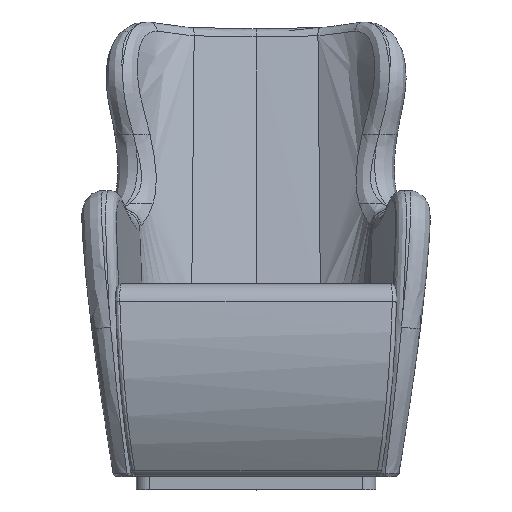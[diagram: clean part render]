
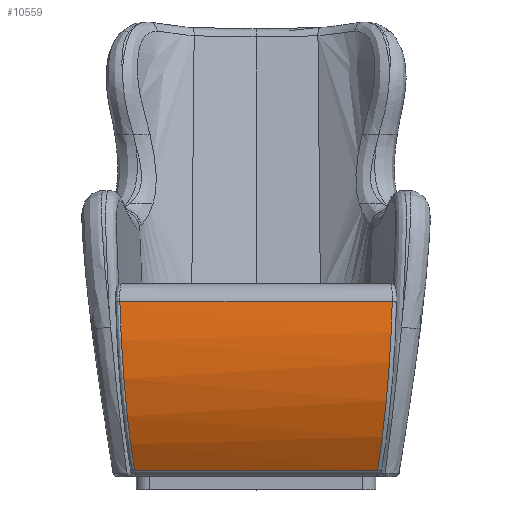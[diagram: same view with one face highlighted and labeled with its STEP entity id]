
A CAD part, top view. The second image highlights one B-rep face of the part: STEP entity #10559.
In plain terms, the highlighted cylindrical face has radius 525.307 mm (diameter 1050.61 mm), a partial arc.
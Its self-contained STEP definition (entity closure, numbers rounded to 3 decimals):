
#41 = CARTESIAN_POINT ( 'NONE',  ( 282.025, -276.594, 460.344 ) ) ;
#47 = CARTESIAN_POINT ( 'NONE',  ( -303.495, -78.301, 526.778 ) ) ;
#939 = EDGE_CURVE ( 'NONE', #6883, #5391, #5728, .T. ) ;
#1626 = CARTESIAN_POINT ( 'NONE',  ( -284.701, -257.875, 470.382 ) ) ;
#1877 = CARTESIAN_POINT ( 'NONE',  ( -289.258, -223.756, 486.861 ) ) ;
#2002 = CARTESIAN_POINT ( 'NONE',  ( -297.181, -152.859, 512.193 ) ) ;
#2056 = ORIENTED_EDGE ( 'NONE', *, *, #23037, .T. ) ;
#2128 = CARTESIAN_POINT ( 'NONE',  ( -284.436, -259.745, 469.393 ) ) ;
#2774 = CARTESIAN_POINT ( 'NONE',  ( 311.404, 81.202, 522.237 ) ) ;
#3630 = VERTEX_POINT ( 'NONE', #13041 ) ;
#3632 = CARTESIAN_POINT ( 'NONE',  ( -435.622, -13.27, 5.495 ) ) ;
#3709 = CARTESIAN_POINT ( 'NONE',  ( 305.239, -53.757, 529.508 ) ) ;
#3713 = CARTESIAN_POINT ( 'NONE',  ( -293.865, -184.837, 502.277 ) ) ;
#3837 = CARTESIAN_POINT ( 'NONE',  ( -292.093, -200.563, 496.565 ) ) ;
#4204 = CARTESIAN_POINT ( 'NONE',  ( -302.383, -93.006, 524.719 ) ) ;
#4267 = AXIS2_PLACEMENT_3D ( 'NONE', #3632, #7925, #25864 ) ;
#4688 = CARTESIAN_POINT ( 'NONE',  ( -277.465, -305.043, 442.32 ) ) ;
#5031 = CARTESIAN_POINT ( 'NONE',  ( -311.404, 81.202, 522.237 ) ) ;
#5166 = CARTESIAN_POINT ( 'NONE',  ( -310.957, 64.427, 525.304 ) ) ;
#5391 = VERTEX_POINT ( 'NONE', #4688 ) ;
#5676 = CARTESIAN_POINT ( 'NONE',  ( 301.575, -103.715, 523.232 ) ) ;
#5728 = B_SPLINE_CURVE_WITH_KNOTS ( 'NONE', 3,
 ( #5031, #5166, #14966, #9083, #13005, #12185, #16124, #12061, #47, #14032, #23855, #23731, #4204, #19932, #11689, #6054, #2002, #3713, #3837, #1877, #5933, #8009, #25562, #21763, #22138, #1626, #2128, #9851, #19681, #20055 ),
 .UNSPECIFIED., .F., .F.,
 ( 4, 2, 2, 2, 2, 2, 2, 2, 2, 2, 2, 2, 2, 2, 4 ),
 ( 0., 0.05, 0.101, 0.151, 0.164, 0.17, 0.177, 0.202, 0.252, 0.303, 0.328, 0.341, 0.347, 0.353, 0.404 ),
 .UNSPECIFIED. ) ;
#5933 = CARTESIAN_POINT ( 'NONE',  ( -288.283, -231.421, 483.437 ) ) ;
#6049 = CARTESIAN_POINT ( 'NONE',  ( 292.017, -201.217, 496.314 ) ) ;
#6054 = CARTESIAN_POINT ( 'NONE',  ( -298.725, -136.608, 516.396 ) ) ;
#6299 = CARTESIAN_POINT ( 'NONE',  ( 310.387, 47.542, 527.548 ) ) ;
#6509 = CARTESIAN_POINT ( 'NONE',  ( 277.465, -305.043, 442.32 ) ) ;
#6883 = VERTEX_POINT ( 'NONE', #25337 ) ;
#7521 = EDGE_CURVE ( 'NONE', #13235, #3630, #20663, .T. ) ;
#7628 = CARTESIAN_POINT ( 'NONE',  ( 297.114, -153.188, 511.896 ) ) ;
#7925 = DIRECTION ( 'NONE',  ( 1., 0., 0. ) ) ;
#8009 = CARTESIAN_POINT ( 'NONE',  ( -286.775, -242.818, 478.013 ) ) ;
#8053 = FACE_OUTER_BOUND ( 'NONE', #13297, .T. ) ;
#9083 = CARTESIAN_POINT ( 'NONE',  ( -309.013, 14.078, 530.36 ) ) ;
#9338 = VECTOR ( 'NONE', #12367, 1000. ) ;
#9851 = CARTESIAN_POINT ( 'NONE',  ( -282.038, -276.516, 460.396 ) ) ;
#10559 = ADVANCED_FACE ( 'NONE', ( #8053 ), #15788, .T. ) ;
#11684 = CARTESIAN_POINT ( 'NONE',  ( 306.297, -37.002, 530.535 ) ) ;
#11689 = CARTESIAN_POINT ( 'NONE',  ( -300.872, -111.828, 521.542 ) ) ;
#11931 = CARTESIAN_POINT ( 'NONE',  ( 286.243, -247.119, 476.177 ) ) ;
#12061 = CARTESIAN_POINT ( 'NONE',  ( -303.8, -74.1, 527.285 ) ) ;
#12180 = CARTESIAN_POINT ( 'NONE',  ( 299.427, -128.5, 518.077 ) ) ;
#12185 = CARTESIAN_POINT ( 'NONE',  ( -306.339, -36.299, 530.566 ) ) ;
#12241 = LINE ( 'NONE', #23784, #15184 ) ;
#12367 = DIRECTION ( 'NONE',  ( -1., 0., 0. ) ) ;
#13005 = CARTESIAN_POINT ( 'NONE',  ( -308.204, -2.711, 530.964 ) ) ;
#13041 = CARTESIAN_POINT ( 'NONE',  ( 311.404, 81.202, 522.237 ) ) ;
#13235 = VERTEX_POINT ( 'NONE', #6509 ) ;
#13297 = EDGE_LOOP ( 'NONE', ( #2056, #24333, #14338, #21509 ) ) ;
#14028 = CARTESIAN_POINT ( 'NONE',  ( 293.797, -185.466, 502.063 ) ) ;
#14032 = CARTESIAN_POINT ( 'NONE',  ( -303.026, -84.602, 525.941 ) ) ;
#14335 = CARTESIAN_POINT ( 'NONE',  ( -435.622, 81.202, 522.237 ) ) ;
#14338 = ORIENTED_EDGE ( 'NONE', *, *, #25438, .T. ) ;
#14413 = CARTESIAN_POINT ( 'NONE',  ( 308.991, 13.568, 530.393 ) ) ;
#14966 = CARTESIAN_POINT ( 'NONE',  ( -310.39, 47.647, 527.53 ) ) ;
#15184 = VECTOR ( 'NONE', #21821, 1000. ) ;
#15788 = CYLINDRICAL_SURFACE ( 'NONE', #4267, 525.307 ) ;
#16120 = CARTESIAN_POINT ( 'NONE',  ( 288.24, -232.043, 483.371 ) ) ;
#16124 = CARTESIAN_POINT ( 'NONE',  ( -305.283, -53.097, 529.563 ) ) ;
#18216 = CARTESIAN_POINT ( 'NONE',  ( 279.804, -290.993, 451.704 ) ) ;
#19681 = CARTESIAN_POINT ( 'NONE',  ( -279.804, -290.994, 451.703 ) ) ;
#19932 = CARTESIAN_POINT ( 'NONE',  ( -301.559, -103.501, 523.064 ) ) ;
#20055 = CARTESIAN_POINT ( 'NONE',  ( -277.465, -305.043, 442.32 ) ) ;
#20663 = B_SPLINE_CURVE_WITH_KNOTS ( 'NONE', 3,
 ( #21890, #18216, #41, #11931, #16120, #6049, #14028, #22011, #7628, #24092, #12180, #5676, #21636, #3709, #11684, #24219, #14413, #6299, #22532, #2774 ),
 .UNSPECIFIED., .F., .F.,
 ( 4, 2, 2, 2, 2, 2, 2, 2, 2, 4 ),
 ( 0., 0.05, 0.101, 0.151, 0.177, 0.202, 0.252, 0.303, 0.353, 0.404 ),
 .UNSPECIFIED. ) ;
#21509 = ORIENTED_EDGE ( 'NONE', *, *, #939, .T. ) ;
#21636 = CARTESIAN_POINT ( 'NONE',  ( 302.878, -87.113, 525.856 ) ) ;
#21763 = CARTESIAN_POINT ( 'NONE',  ( -285.488, -252.248, 473.3 ) ) ;
#21821 = DIRECTION ( 'NONE',  ( 1., 0., 0. ) ) ;
#21890 = CARTESIAN_POINT ( 'NONE',  ( 277.465, -305.043, 442.32 ) ) ;
#22011 = CARTESIAN_POINT ( 'NONE',  ( 296.305, -161.323, 509.577 ) ) ;
#22138 = CARTESIAN_POINT ( 'NONE',  ( -285.227, -254.126, 472.335 ) ) ;
#22191 = LINE ( 'NONE', #14335, #9338 ) ;
#22532 = CARTESIAN_POINT ( 'NONE',  ( 310.957, 64.425, 525.304 ) ) ;
#23037 = EDGE_CURVE ( 'NONE', #5391, #13235, #12241, .T. ) ;
#23731 = CARTESIAN_POINT ( 'NONE',  ( -302.546, -90.904, 525.038 ) ) ;
#23784 = CARTESIAN_POINT ( 'NONE',  ( -435.622, -305.043, 442.32 ) ) ;
#23855 = CARTESIAN_POINT ( 'NONE',  ( -302.867, -86.703, 525.648 ) ) ;
#24092 = CARTESIAN_POINT ( 'NONE',  ( 298.678, -136.743, 516.155 ) ) ;
#24219 = CARTESIAN_POINT ( 'NONE',  ( 308.172, -3.34, 530.978 ) ) ;
#24333 = ORIENTED_EDGE ( 'NONE', *, *, #7521, .T. ) ;
#25337 = CARTESIAN_POINT ( 'NONE',  ( -311.404, 81.202, 522.237 ) ) ;
#25438 = EDGE_CURVE ( 'NONE', #3630, #6883, #22191, .T. ) ;
#25562 = CARTESIAN_POINT ( 'NONE',  ( -286.265, -246.6, 476.157 ) ) ;
#25864 = DIRECTION ( 'NONE',  ( 0., 0., -1. ) ) ;
